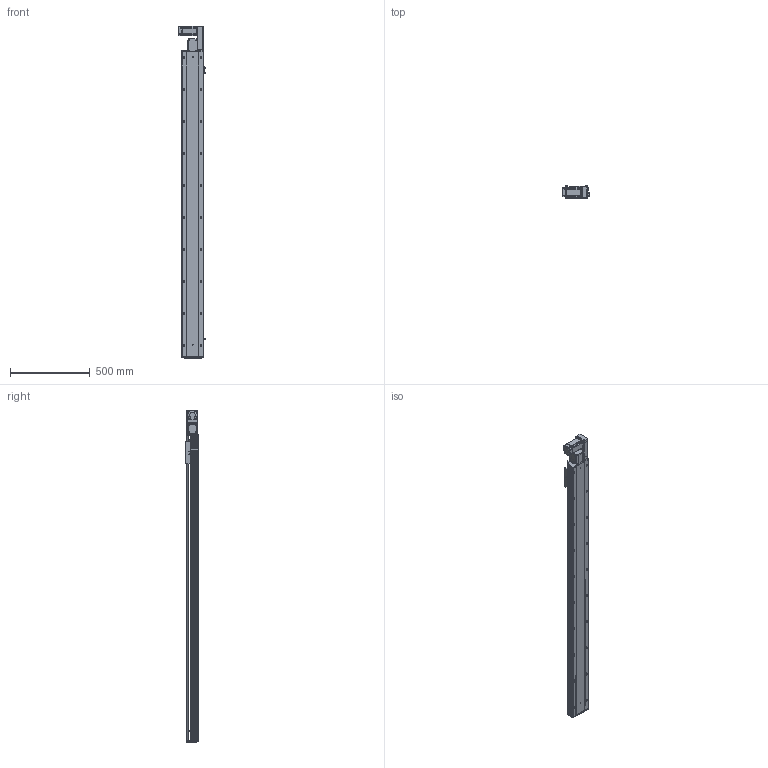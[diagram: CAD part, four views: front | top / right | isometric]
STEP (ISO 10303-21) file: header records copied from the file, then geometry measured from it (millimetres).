
FILE_DESCRIPTION (( 'STEP AP203' ), '1' );
FILE_NAME ('RY140-T-300-RK.SLDASM_1650.step', '2021-03-01T06:46:45', ( '盈信电脑' ), ( '东莞市道滘镇水果街19号' ), 'SwSTEP 2.0', 'SolidWorks 2012', '' );
FILE_SCHEMA (( 'CONFIG_CONTROL_DESIGN' ));
Length unit declared in the file: millimetre
Products named in the file (17): RY140-T-300-DR倰第菁釱_1650; 15; RY120-T主同步轮轴承压盖; RY140-T-300-RK.SLDASM_1650; RY140-T翋肮謫裔啣; RY120-T蹟翐M4; RY140-T萇儂假蚾啣; RY140-T萇儂欶; RY120-T肮祭湍揤踡輸2; RY120-T肮祭湍揤踡輸1; RY140-T翋肮祭謫盓傅釱; 滅袉蝶18-10; 覜茼ん672; RY140綴裔啣; RY120外置感应片(140共用）; RY140-T-300-DR倰第奻裔啣_1650; RY140肮祭謫臏賑輸
Assembly tree (22 placements, depth 2):
  RY140-T-300-RK.SLDASM_1650
    RY140-T-300-DR倰第菁釱_1650
    RY140肮祭謫臏賑輸
    RY140-T-300-DR倰第奻裔啣_1650
    RY140綴裔啣
    覜茼ん672  x3
    RY120外置感应片(140共用）
    RY120-T肮祭湍揤踡輸2
    RY120-T肮祭湍揤踡輸1
    RY140-T翋肮祭謫盓傅釱
    滅袉蝶18-10  x2
    RY140-T翋肮謫裔啣
    RY140-T萇儂欶
    RY140-T萇儂假蚾啣
    RY120-T蹟翐M4  x4
    15
    RY120-T主同步轮轴承压盖
Bounding box: 170.7 x 78 x 2076.5 mm (x, y, z)
Volume: 5551800.1 mm3; surface area: 2158986.3 mm2
Topology: 22 solids, 22 shells, 2807 faces, 7697 edges, 4910 vertices
Faces by surface type: plane 1381, cylinder 1060, cone 266, bspline 100
Entity records: 88642 total; most frequent: CARTESIAN_POINT 21577, ORIENTED_EDGE 13794, DIRECTION 13169, EDGE_CURVE 6897, VERTEX_POINT 4509, AXIS2_PLACEMENT_3D 4410, LINE 4349, VECTOR 4349
